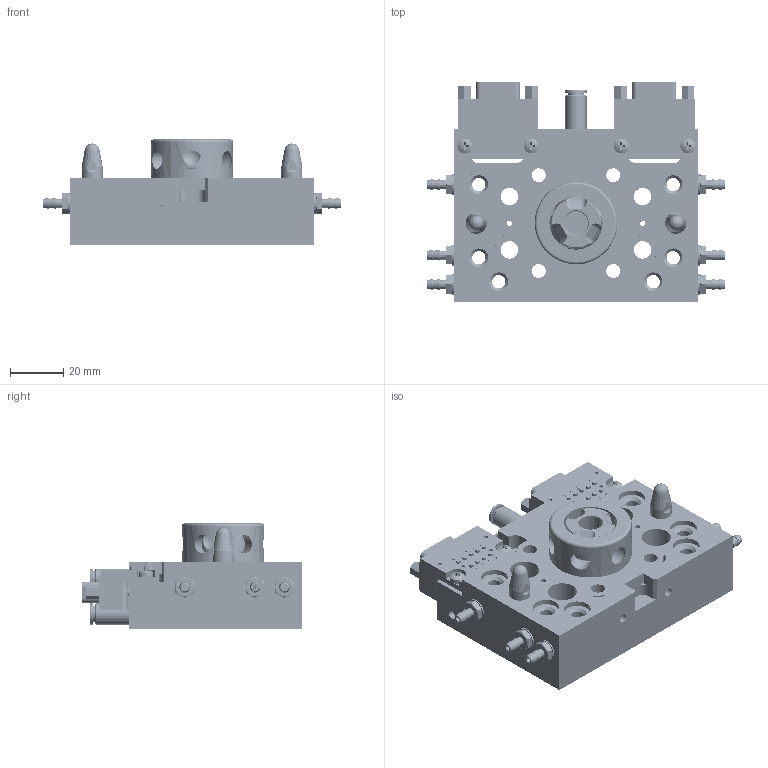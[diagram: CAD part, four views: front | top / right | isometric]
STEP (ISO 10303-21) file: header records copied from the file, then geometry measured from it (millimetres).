
FILE_DESCRIPTION (( 'STEP AP203' ), '1' );
FILE_NAME ('QCA-S10R.STEP', '2024-03-20T06:22:14', ( '微软用户' ), ( '微软中国' ), 'SwSTEP 2.0', 'SolidWorks 2018', '' );
FILE_SCHEMA (( 'CONFIG_CONTROL_DESIGN' ));
Products named in the file (1): QCA-S10R
Bounding box: 112 x 82.46 x 39.5 mm (x, y, z)
Volume: 127519.1 mm3; surface area: 65700.3 mm2
Topology: 51 solids, 51 shells, 4087 faces, 9177 edges, 5322 vertices
Faces by surface type: cone 1611, cylinder 1554, plane 682, bspline 126, torus 62, sphere 52
Entity records: 136536 total; most frequent: CARTESIAN_POINT 46290, DIRECTION 19611, ORIENTED_EDGE 18246, EDGE_CURVE 9123, AXIS2_PLACEMENT_3D 7698, VERTEX_POINT 5286, EDGE_LOOP 4361, LINE 4215
